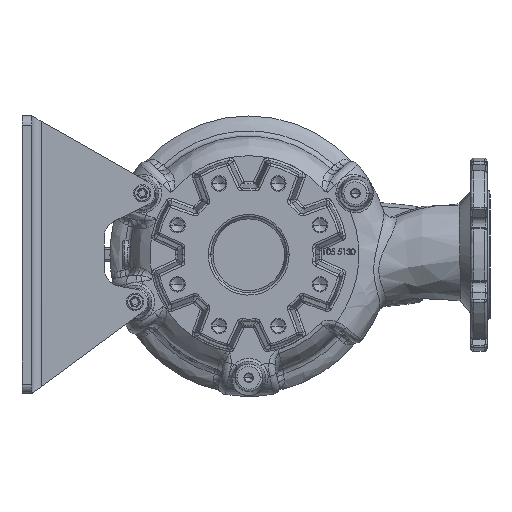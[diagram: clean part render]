
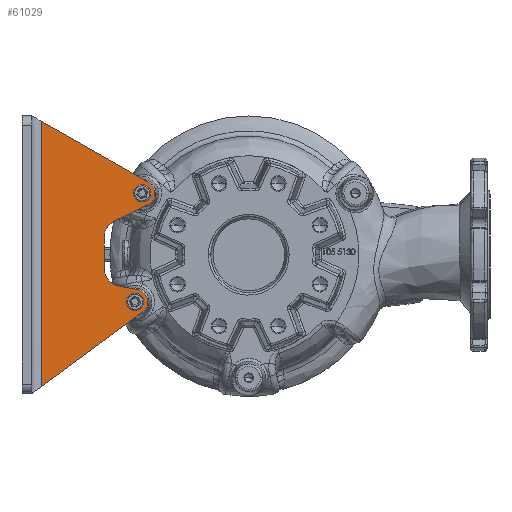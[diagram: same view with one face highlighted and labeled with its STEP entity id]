
A CAD part, front view. The second image highlights one B-rep face of the part: STEP entity #61029.
In plain terms, the highlighted planar face has unit normal (0, -1, 0).
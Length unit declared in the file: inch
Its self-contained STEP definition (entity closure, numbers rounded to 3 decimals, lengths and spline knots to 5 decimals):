
#1476 = FACE_BOUND ( 'NONE', #117681, .T. ) ;
#1818 = ORIENTED_EDGE ( 'NONE', *, *, #46145, .T. ) ;
#2907 = CARTESIAN_POINT ( 'NONE',  ( -4.12297, -16.53879, 2.04975 ) ) ;
#4400 = CARTESIAN_POINT ( 'NONE',  ( -5.90551, -16.53879, -1.1811 ) ) ;
#5104 = DIRECTION ( 'NONE',  ( 0., 0., -1. ) ) ;
#5636 = VERTEX_POINT ( 'NONE', #63438 ) ;
#7875 = DIRECTION ( 'NONE',  ( 0., 1., 0. ) ) ;
#8991 = AXIS2_PLACEMENT_3D ( 'NONE', #75487, #167673, #88846 ) ;
#9693 = CARTESIAN_POINT ( 'NONE',  ( -5.90551, -16.53879, -0.51875 ) ) ;
#10697 = DIRECTION ( 'NONE',  ( 0.902, 0., -0.432 ) ) ;
#13522 = ORIENTED_EDGE ( 'NONE', *, *, #165720, .T. ) ;
#15366 = EDGE_CURVE ( 'NONE', #122830, #49039, #25376, .T. ) ;
#18367 = VECTOR ( 'NONE', #94929, 39.37008 ) ;
#23546 = ORIENTED_EDGE ( 'NONE', *, *, #48366, .T. ) ;
#24141 = ORIENTED_EDGE ( 'NONE', *, *, #115292, .T. ) ;
#24813 = CARTESIAN_POINT ( 'NONE',  ( -4.63758, -16.53879, -1.92095 ) ) ;
#25376 = CIRCLE ( 'NONE', #146750, 0.51181 ) ;
#26730 = EDGE_CURVE ( 'NONE', #99383, #5636, #169604, .T. ) ;
#29028 = VERTEX_POINT ( 'NONE', #115489 ) ;
#29534 = VERTEX_POINT ( 'NONE', #88502 ) ;
#30941 = CIRCLE ( 'NONE', #114598, 0.35433 ) ;
#32276 = FACE_OUTER_BOUND ( 'NONE', #123863, .T. ) ;
#34503 = VERTEX_POINT ( 'NONE', #68137 ) ;
#35181 = AXIS2_PLACEMENT_3D ( 'NONE', #24813, #117021, #38150 ) ;
#35839 = DIRECTION ( 'NONE',  ( 0., 1., 0. ) ) ;
#36499 = ORIENTED_EDGE ( 'NONE', *, *, #114825, .T. ) ;
#36945 = ORIENTED_EDGE ( 'NONE', *, *, #26730, .T. ) ;
#38150 = DIRECTION ( 'NONE',  ( 0.337, 0., 0.941 ) ) ;
#39223 = CIRCLE ( 'NONE', #35181, 0.35433 ) ;
#39328 = DIRECTION ( 'NONE',  ( 0., 0., 1. ) ) ;
#41595 = VERTEX_POINT ( 'NONE', #69645 ) ;
#44557 = DIRECTION ( 'NONE',  ( -0.985, 0., 0.171 ) ) ;
#44667 = DIRECTION ( 'NONE',  ( 0., 0., 1. ) ) ;
#46145 = EDGE_CURVE ( 'NONE', #160716, #29534, #39223, .T. ) ;
#47457 = DIRECTION ( 'NONE',  ( 0., 1., 0. ) ) ;
#48366 = EDGE_CURVE ( 'NONE', #34503, #49039, #56599, .T. ) ;
#49039 = VERTEX_POINT ( 'NONE', #2907 ) ;
#49709 = LINE ( 'NONE', #157398, #88942 ) ;
#54217 = CARTESIAN_POINT ( 'NONE',  ( -8.46457, -16.53879, 5.44496 ) ) ;
#54856 = CARTESIAN_POINT ( 'NONE',  ( -4.34717, -16.53879, 2.50984 ) ) ;
#56599 = LINE ( 'NONE', #132531, #91696 ) ;
#61029 = ADVANCED_FACE ( 'NONE', ( #1476, #32276, #137529 ), #61666, .F. ) ;
#61666 = PLANE ( 'NONE',  #138162 ) ;
#61981 = EDGE_LOOP ( 'NONE', ( #1818, #77521 ) ) ;
#62150 = AXIS2_PLACEMENT_3D ( 'NONE', #168555, #89743, #10697 ) ;
#63438 = CARTESIAN_POINT ( 'NONE',  ( -5.90551, -16.53879, 0.68889 ) ) ;
#64417 = VECTOR ( 'NONE', #44667, 39.37008 ) ;
#67318 = ORIENTED_EDGE ( 'NONE', *, *, #161238, .F. ) ;
#67852 = VERTEX_POINT ( 'NONE', #105891 ) ;
#68001 = DIRECTION ( 'NONE',  ( 0., 0., 1. ) ) ;
#68137 = CARTESIAN_POINT ( 'NONE',  ( -5.46304, -16.53879, 1.39672 ) ) ;
#69619 = EDGE_CURVE ( 'NONE', #29028, #99047, #49709, .T. ) ;
#69645 = CARTESIAN_POINT ( 'NONE',  ( -4.54995, -16.53879, -1.4167 ) ) ;
#71071 = DIRECTION ( 'NONE',  ( 0., 1., 0. ) ) ;
#75487 = CARTESIAN_POINT ( 'NONE',  ( -4.63758, -16.53879, -1.92095 ) ) ;
#77521 = ORIENTED_EDGE ( 'NONE', *, *, #108270, .T. ) ;
#78364 = CARTESIAN_POINT ( 'NONE',  ( -4.33382, -16.53879, -2.33287 ) ) ;
#80637 = CARTESIAN_POINT ( 'NONE',  ( -4.02763, -16.53879, 2.35674 ) ) ;
#82171 = CARTESIAN_POINT ( 'NONE',  ( -4.09379, -16.53879, 2.95453 ) ) ;
#83915 = DIRECTION ( 'NONE',  ( 0., 1., 0. ) ) ;
#84580 = AXIS2_PLACEMENT_3D ( 'NONE', #162903, #83915, #5104 ) ;
#85674 = VERTEX_POINT ( 'NONE', #99474 ) ;
#86500 = LINE ( 'NONE', #136779, #117468 ) ;
#86793 = CARTESIAN_POINT ( 'NONE',  ( -5.11811, -16.53879, 0.68889 ) ) ;
#88502 = CARTESIAN_POINT ( 'NONE',  ( -4.75704, -16.53879, -2.25454 ) ) ;
#88846 = DIRECTION ( 'NONE',  ( 0., 0., 1. ) ) ;
#88942 = VECTOR ( 'NONE', #39328, 39.37008 ) ;
#89743 = DIRECTION ( 'NONE',  ( 0., 1., 0. ) ) ;
#90183 = ORIENTED_EDGE ( 'NONE', *, *, #148339, .T. ) ;
#91696 = VECTOR ( 'NONE', #145858, 39.37008 ) ;
#94929 = DIRECTION ( 'NONE',  ( 0.805, 0., 0.594 ) ) ;
#96103 = EDGE_CURVE ( 'NONE', #137102, #85674, #109804, .T. ) ;
#99047 = VERTEX_POINT ( 'NONE', #54217 ) ;
#99313 = CIRCLE ( 'NONE', #114560, 0.35433 ) ;
#99383 = VERTEX_POINT ( 'NONE', #9693 ) ;
#99474 = CARTESIAN_POINT ( 'NONE',  ( -4.66672, -16.53879, 2.66295 ) ) ;
#100030 = DIRECTION ( 'NONE',  ( 0., 0., -1. ) ) ;
#105891 = CARTESIAN_POINT ( 'NONE',  ( -5.25294, -16.53879, -1.29452 ) ) ;
#108270 = EDGE_CURVE ( 'NONE', #29534, #160716, #99313, .T. ) ;
#109804 = CIRCLE ( 'NONE', #62150, 0.35433 ) ;
#114560 = AXIS2_PLACEMENT_3D ( 'NONE', #150033, #71071, #163255 ) ;
#114598 = AXIS2_PLACEMENT_3D ( 'NONE', #126455, #47457, #139768 ) ;
#114728 = CARTESIAN_POINT ( 'NONE',  ( -2.16535, -16.53879, 5.66929 ) ) ;
#114825 = EDGE_CURVE ( 'NONE', #85674, #137102, #30941, .T. ) ;
#115292 = EDGE_CURVE ( 'NONE', #122830, #99047, #133733, .T. ) ;
#115489 = CARTESIAN_POINT ( 'NONE',  ( -8.46457, -16.53879, -5.37897 ) ) ;
#116979 = ORIENTED_EDGE ( 'NONE', *, *, #96103, .T. ) ;
#117021 = DIRECTION ( 'NONE',  ( 0., 1., 0. ) ) ;
#117468 = VECTOR ( 'NONE', #44557, 39.37008 ) ;
#117681 = EDGE_LOOP ( 'NONE', ( #116979, #36499 ) ) ;
#122830 = VERTEX_POINT ( 'NONE', #82171 ) ;
#122942 = DIRECTION ( 'NONE',  ( -0.869, 0., 0.495 ) ) ;
#123863 = EDGE_LOOP ( 'NONE', ( #147663, #168890, #67318, #13522, #130775, #36945, #90183, #23546, #127683, #24141 ) ) ;
#126455 = CARTESIAN_POINT ( 'NONE',  ( -4.34717, -16.53879, 2.50984 ) ) ;
#127683 = ORIENTED_EDGE ( 'NONE', *, *, #15366, .F. ) ;
#127985 = DIRECTION ( 'NONE',  ( -1., 0., 0. ) ) ;
#128648 = CIRCLE ( 'NONE', #8991, 0.51181 ) ;
#129603 = VECTOR ( 'NONE', #122942, 39.37008 ) ;
#130775 = ORIENTED_EDGE ( 'NONE', *, *, #145397, .T. ) ;
#132531 = CARTESIAN_POINT ( 'NONE',  ( -5.90551, -16.53879, 1.1811 ) ) ;
#133733 = LINE ( 'NONE', #162078, #129603 ) ;
#135269 = CARTESIAN_POINT ( 'NONE',  ( -8.85827, -16.53879, -5.66929 ) ) ;
#136779 = CARTESIAN_POINT ( 'NONE',  ( -5.90551, -16.53879, -1.1811 ) ) ;
#137102 = VERTEX_POINT ( 'NONE', #80637 ) ;
#137529 = FACE_BOUND ( 'NONE', #61981, .T. ) ;
#137772 = EDGE_CURVE ( 'NONE', #29028, #168979, #154456, .T. ) ;
#138162 = AXIS2_PLACEMENT_3D ( 'NONE', #114728, #35839, #127985 ) ;
#139768 = DIRECTION ( 'NONE',  ( 0.902, 0., -0.432 ) ) ;
#145397 = EDGE_CURVE ( 'NONE', #67852, #99383, #168427, .T. ) ;
#145858 = DIRECTION ( 'NONE',  ( 0.899, 0., 0.438 ) ) ;
#146750 = AXIS2_PLACEMENT_3D ( 'NONE', #54856, #146992, #68001 ) ;
#146992 = DIRECTION ( 'NONE',  ( 0., 1., 0. ) ) ;
#147663 = ORIENTED_EDGE ( 'NONE', *, *, #69619, .F. ) ;
#148339 = EDGE_CURVE ( 'NONE', #5636, #34503, #161422, .T. ) ;
#150033 = CARTESIAN_POINT ( 'NONE',  ( -4.63758, -16.53879, -1.92095 ) ) ;
#150302 = AXIS2_PLACEMENT_3D ( 'NONE', #86793, #7875, #100030 ) ;
#154114 = CARTESIAN_POINT ( 'NONE',  ( -4.51813, -16.53879, -1.58736 ) ) ;
#154456 = LINE ( 'NONE', #135269, #18367 ) ;
#157398 = CARTESIAN_POINT ( 'NONE',  ( -8.46457, -16.53879, 5.66929 ) ) ;
#160716 = VERTEX_POINT ( 'NONE', #154114 ) ;
#161238 = EDGE_CURVE ( 'NONE', #41595, #168979, #128648, .T. ) ;
#161422 = CIRCLE ( 'NONE', #150302, 0.7874 ) ;
#162078 = CARTESIAN_POINT ( 'NONE',  ( -8.85827, -16.53879, 5.66929 ) ) ;
#162903 = CARTESIAN_POINT ( 'NONE',  ( -5.11811, -16.53879, -0.51875 ) ) ;
#163255 = DIRECTION ( 'NONE',  ( 0.337, 0., 0.941 ) ) ;
#165720 = EDGE_CURVE ( 'NONE', #41595, #67852, #86500, .T. ) ;
#167673 = DIRECTION ( 'NONE',  ( 0., 1., 0. ) ) ;
#168427 = CIRCLE ( 'NONE', #84580, 0.7874 ) ;
#168555 = CARTESIAN_POINT ( 'NONE',  ( -4.34717, -16.53879, 2.50984 ) ) ;
#168890 = ORIENTED_EDGE ( 'NONE', *, *, #137772, .T. ) ;
#168979 = VERTEX_POINT ( 'NONE', #78364 ) ;
#169604 = LINE ( 'NONE', #4400, #64417 ) ;
